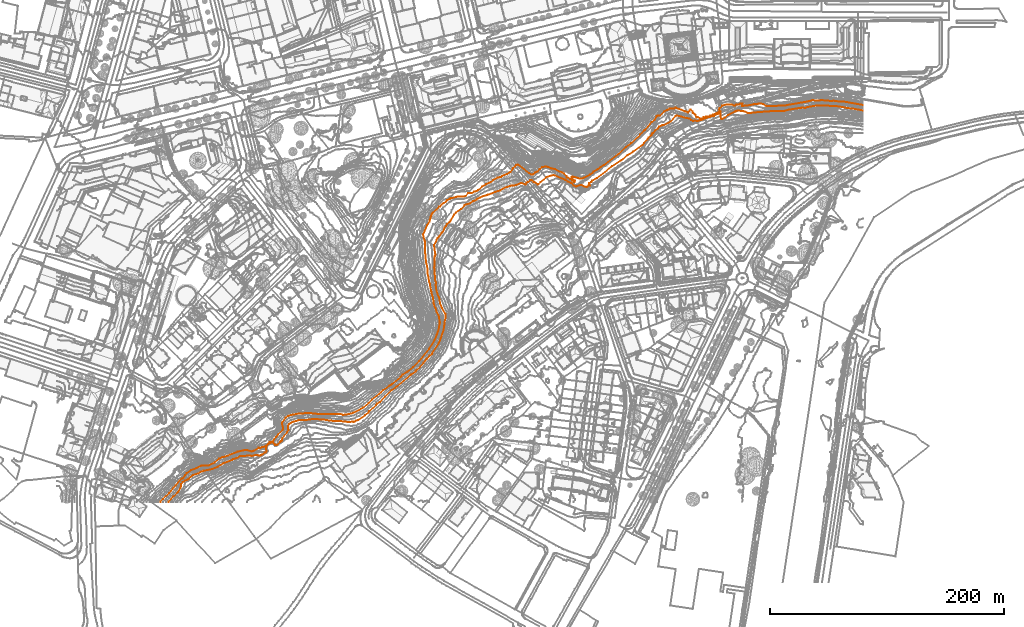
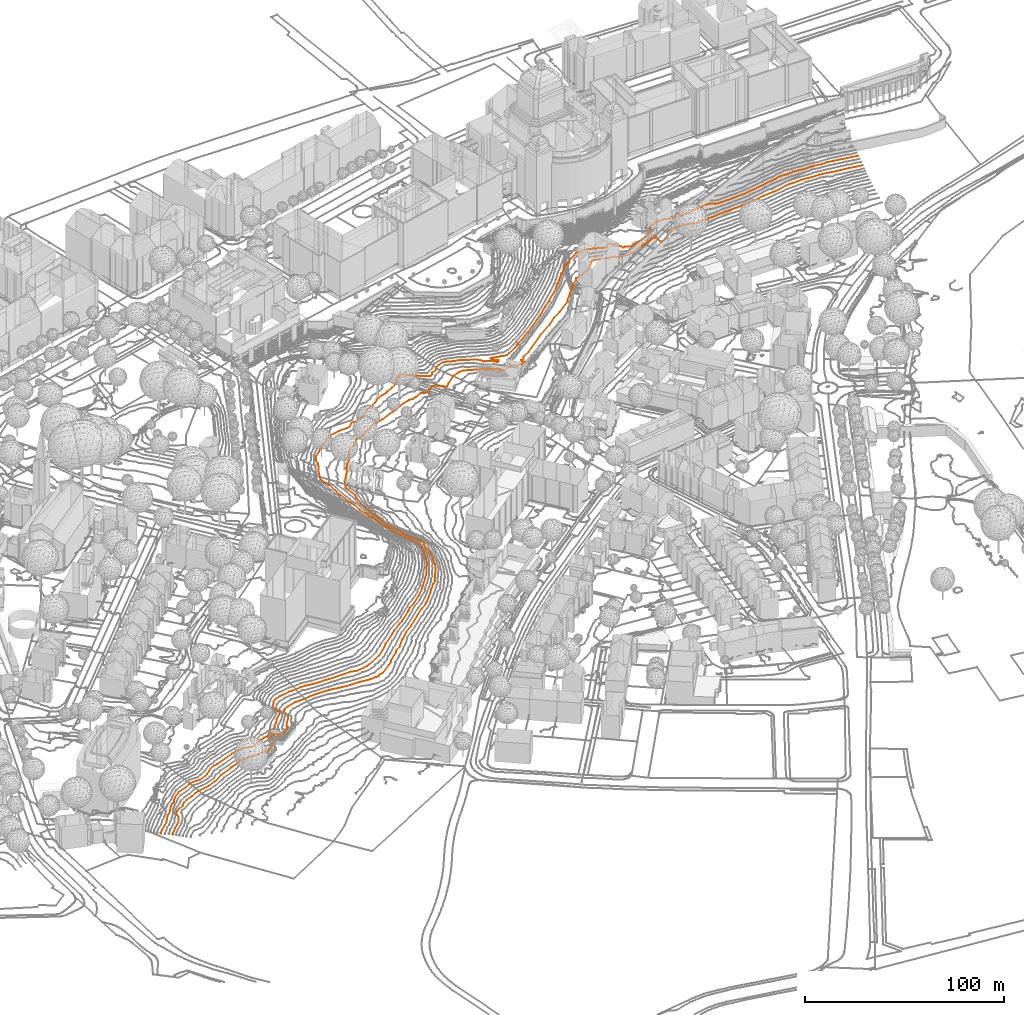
# Not in any storey, part 147 of 494: 2 proxies.
"""IFC2X3 model written with IfcOpenShell, lengths in metres."""

import ifcopenshell
import ifcopenshell.guid

model = None  # the IFC model being written
_history = None  # IfcOwnerHistory: only IFC2X3 demands one
_inside = {}  # id of a spatial element -> (the spatial element, [elements in it])
_under = {}  # id of a project, library or spatial element -> (it, [spatial elements below it])
_declared = {}  # id of a project -> (the project, [libraries it declares])
_typed = {}  # id of a type object -> (the type object, [elements of that type])
_made_of = {}  # id of a material, layer set ... -> (it, [elements and type objects made of it])


def new_model(schema):
    """Start an empty IFC model of exactly this schema.

    Asked for "IFC4X3", IfcOpenShell would pick the latest addendum, in which some entities
    have other attributes; the version numbers below select the first issue.
    IFC2X3 requires an IfcOwnerHistory on every rooted entity: one is made here for all.
    """
    global model, _history
    if schema == "IFC4X3":
        model = ifcopenshell.file(schema_version=(4, 3, 0, 0))
    else:
        model = ifcopenshell.file(schema=schema)
    _inside.clear()
    _under.clear()
    _declared.clear()
    _typed.clear()
    _made_of.clear()
    _history = None
    if model.schema == "IFC2X3":
        org = make("IfcOrganization", Name="unknown")
        user = make(
            "IfcPersonAndOrganization",
            ThePerson=make("IfcPerson", FamilyName="unknown"),
            TheOrganization=org,
        )
        app = make(
            "IfcApplication",
            ApplicationDeveloper=org,
            Version="unknown",
            ApplicationFullName="unknown",
            ApplicationIdentifier="unknown",
        )
        _history = make(
            "IfcOwnerHistory",
            OwningUser=user,
            OwningApplication=app,
            ChangeAction="ADDED",
            CreationDate=0,
        )
    return model


def make(cls, **values):
    """One entity of the class cls with the attributes given. An attribute that is None is left unset."""
    return model.create_entity(
        cls, **{name: value for name, value in values.items() if value is not None}
    )


def entity(cls, *values):
    """Any entity or typed value of the class cls, its attributes in the order of the schema. None: left unset."""
    e = model.create_entity(cls)
    for i, value in enumerate(values):
        if value is not None:
            e[i] = value
    return e


def rooted(cls, **values):
    """An entity with a GlobalId (a new one), such as an element, a storey or a relation."""
    return make(cls, GlobalId=ifcopenshell.guid.new(), OwnerHistory=_history, **values)


def si_unit(unit_type, name, prefix=None):
    """IfcSIUnit, for example si_unit("LENGTHUNIT", "METRE", prefix="MILLI")."""
    return make("IfcSIUnit", UnitType=unit_type, Prefix=prefix, Name=name)


def assignment(units):
    """IfcUnitAssignment: the units of a project."""
    return None if units is None else make("IfcUnitAssignment", Units=units)


def point(xyz):
    """IfcCartesianPoint."""
    return None if xyz is None else make("IfcCartesianPoint", Coordinates=xyz)


def direction(xyz):
    """IfcDirection."""
    return None if xyz is None else make("IfcDirection", DirectionRatios=xyz)


def frame(location, z_axis=None, x_axis=None):
    """IfcAxis2Placement3D, a coordinate frame: its origin and axes. An axis left out is left unset."""
    return make(
        "IfcAxis2Placement3D",
        Location=point(location),
        Axis=direction(z_axis),
        RefDirection=direction(x_axis),
    )


def origin_with_axes():
    """The frame at (0, 0, 0) with the z axis (0, 0, 1) and the x axis (1, 0, 0) written out."""
    return frame((0.0, 0.0, 0.0), z_axis=(0.0, 0.0, 1.0), x_axis=(1.0, 0.0, 0.0))


def place(relative_to, where):
    """IfcLocalPlacement: puts the frame where relative to a parent placement (None: the world)."""
    return make(
        "IfcLocalPlacement", PlacementRelTo=relative_to, RelativePlacement=where
    )


def context(
    kind, dimensions, precision=None, world=None, true_north=None, identifier=None
):
    """IfcGeometricRepresentationContext, for example the 3D "Model" context."""
    return make(
        "IfcGeometricRepresentationContext",
        ContextIdentifier=identifier,
        ContextType=kind,
        CoordinateSpaceDimension=dimensions,
        Precision=precision,
        WorldCoordinateSystem=world,
        TrueNorth=true_north,
    )


def subcontext(parent, identifier, kind, view, scale=None):
    """IfcGeometricRepresentationSubContext, for example "Body" below "Model"."""
    return make(
        "IfcGeometricRepresentationSubContext",
        ContextIdentifier=identifier,
        ContextType=kind,
        ParentContext=parent,
        TargetScale=scale,
        TargetView=view,
    )


def project(units=None, contexts=None):
    """IfcProject with its units and contexts."""
    return rooted(
        "IfcProject",
        Name="project",
        RepresentationContexts=contexts,
        UnitsInContext=assignment(units),
    )


def shape(context_of_items, identifier, shape_type, items):
    """IfcShapeRepresentation: the items that make up one representation, for example the "Body"."""
    return make(
        "IfcShapeRepresentation",
        ContextOfItems=context_of_items,
        RepresentationIdentifier=identifier,
        RepresentationType=shape_type,
        Items=items,
    )


def made_of(thing, what):
    """Note that an element or type object is made of a material, layer set ...; save() writes the relation."""
    if what is not None:
        _made_of.setdefault(what.id(), (what, []))[1].append(thing)
    return thing


def element(
    cls,
    number,
    at=None,
    inside=None,
    cuts=None,
    type_object=None,
    material=None,
    context=None,
    identifier="Body",
    shape_type=None,
    held_by="IfcProductDefinitionShape",
    body=None,
    shapes=None,
    **own,
):
    """One element of the class cls, such as IfcWall. Its Tag is "e" and its number.

    at: its placement. inside: the storey or other place that contains it. cuts: it is an
    opening in that element (IfcRelVoidsElement). A single representation is given by context,
    identifier, shape_type and body (its items); several are given by shapes. held_by: the class
    of the entity that holds the representations. save() writes the other relations.
    """
    e = rooted(cls, Tag="e%d" % number, ObjectPlacement=at, **own)
    if body is not None:
        shapes = [shape(context, identifier, shape_type, body)]
    if shapes is not None:
        e.Representation = make(held_by, Representations=shapes)
    if inside is not None:
        _inside.setdefault(inside.id(), (inside, []))[1].append(e)
    if cuts is not None:
        rooted(
            "IfcRelVoidsElement", RelatingBuildingElement=cuts, RelatedOpeningElement=e
        )
    if type_object is not None:
        _typed.setdefault(type_object.id(), (type_object, []))[1].append(e)
    return made_of(e, material)


def aggregate(whole, parts):
    """IfcRelAggregates: a whole, such as a stair, and the parts it consists of."""
    return rooted("IfcRelAggregates", RelatingObject=whole, RelatedObjects=parts)


def save(model, path):
    """Write the relations noted so far, then the file.

    IfcRelAggregates (storeys below a building ...), IfcRelContainedInSpatialStructure (elements
    in a storey), IfcRelDefinesByType, IfcRelAssociatesMaterial and IfcRelDeclares: one each for
    every whole, place, type object, material and project.
    """
    for whole, parts in _under.values():
        aggregate(whole, parts)
    for where, things in _inside.values():
        rooted(
            "IfcRelContainedInSpatialStructure",
            RelatedElements=things,
            RelatingStructure=where,
        )
    for kind, things in _typed.values():
        rooted("IfcRelDefinesByType", RelatedObjects=things, RelatingType=kind)
    for what, things in _made_of.values():
        rooted("IfcRelAssociatesMaterial", RelatedObjects=things, RelatingMaterial=what)
    for by, libraries in _declared.values():
        rooted("IfcRelDeclares", RelatingContext=by, RelatedDefinitions=libraries)
    model.write(path)


model = new_model("IFC2X3")

# Units and contexts
model_context = context("Model", 3, precision=1e-05, world=origin_with_axes())
body_context = subcontext(model_context, "Body", "Model", "MODEL_VIEW")
ifc_project = project(units=[si_unit("AREAUNIT", "SQUARE_METRE"), si_unit("LENGTHUNIT", "METRE")], contexts=[model_context])

# Proxies
proxy_1_placement = place(None, frame((94.6451804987, -1.3292839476, 516.0), z_axis=(0.0, 0.0, 1.0), x_axis=(1.0, 0.0, 0.0)))
element("IfcBuildingElementProxy", 1, at=proxy_1_placement, Name="Contour Line 516.0 m", ObjectType="NOTDEFINED", context=body_context, shape_type="GeometricCurveSet", body=[
    entity("IfcGeometricCurveSet", [entity("IfcPolyline", [entity("IfcCartesianPoint", [593.532551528, 334.4569213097, 0.0]), entity("IfcCartesianPoint", [585.032551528, 336.0992237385, 0.0]), entity("IfcCartesianPoint", [581.032551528, 336.4362391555, 0.0]), entity("IfcCartesianPoint", [570.032551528, 338.3774283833, 0.0]), entity("IfcCartesianPoint", [565.032551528, 338.3635471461, 0.0]), entity("IfcCartesianPoint", [563.032551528, 338.753660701, 0.0]), entity("IfcCartesianPoint", [559.032551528, 338.8943821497, 0.0]), entity("IfcCartesianPoint", [555.032551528, 338.5575432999, 0.0]), entity("IfcCartesianPoint", [553.032551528, 338.6659128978, 0.0]), entity("IfcCartesianPoint", [546.032551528, 337.4804011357, 0.0]), entity("IfcCartesianPoint", [544.032551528, 336.7966074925, 0.0]), entity("IfcCartesianPoint", [541.032551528, 336.837419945, 0.0]), entity("IfcCartesianPoint", [537.032551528, 336.3372235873, 0.0]), entity("IfcCartesianPoint", [530.032551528, 335.2063816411, 0.0]), entity("IfcCartesianPoint", [526.032551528, 334.2492584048, 0.0]), entity("IfcCartesianPoint", [513.032551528, 333.8089837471, 0.0]), entity("IfcCartesianPoint", [499.032551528, 332.7112004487, 0.0]), entity("IfcCartesianPoint", [497.032551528, 332.234372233, 0.0]), entity("IfcCartesianPoint", [494.4856066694, 332.5, 0.0]), entity("IfcCartesianPoint", [492.032551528, 333.7736842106, 0.0]), entity("IfcCartesianPoint", [486.032551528, 334.5032056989, 0.0]), entity("IfcCartesianPoint", [485.032551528, 333.830392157, 0.0]), entity("IfcCartesianPoint", [484.032551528, 333.6964348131, 0.0]), entity("IfcCartesianPoint", [478.032551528, 330.7809695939, 0.0]), entity("IfcCartesianPoint", [475.032551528, 328.3691002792, 0.0]), entity("IfcCartesianPoint", [473.032551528, 327.3569679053, 0.0]), entity("IfcCartesianPoint", [471.9647476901, 327.5, 0.0]), entity("IfcCartesianPoint", [471.5054407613, 331.5, 0.0]), entity("IfcCartesianPoint", [471.032551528, 331.8666666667, 0.0]), entity("IfcCartesianPoint", [468.1002814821, 331.5, 0.0]), entity("IfcCartesianPoint", [466.032551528, 329.9208153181, 0.0]), entity("IfcCartesianPoint", [465.032551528, 330.0118642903, 0.0]), entity("IfcCartesianPoint", [463.2310366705, 329.5, 0.0]), entity("IfcCartesianPoint", [462.032551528, 328.8295881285, 0.0]), entity("IfcCartesianPoint", [461.032551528, 328.7882805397, 0.0]), entity("IfcCartesianPoint", [458.032551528, 327.7130395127, 0.0]), entity("IfcCartesianPoint", [455.032551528, 326.2169025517, 0.0]), entity("IfcCartesianPoint", [454.032551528, 326.2557899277, 0.0]), entity("IfcCartesianPoint", [452.032551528, 325.475490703, 0.0]), entity("IfcCartesianPoint", [450.032551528, 325.8483368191, 0.0]), entity("IfcCartesianPoint", [448.032551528, 325.6429913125, 0.0]), entity("IfcCartesianPoint", [446.3350921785, 326.5, 0.0]), entity("IfcCartesianPoint", [445.032551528, 327.6454870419, 0.0]), entity("IfcCartesianPoint", [443.032551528, 327.9308691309, 0.0]), entity("IfcCartesianPoint", [434.032551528, 330.2673211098, 0.0]), entity("IfcCartesianPoint", [433.032551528, 329.6540574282, 0.0]), entity("IfcCartesianPoint", [429.032551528, 325.2024719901, 0.0]), entity("IfcCartesianPoint", [423.032551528, 321.874878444, 0.0]), entity("IfcCartesianPoint", [422.032551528, 321.8647367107, 0.0]), entity("IfcCartesianPoint", [419.032551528, 320.8609538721, 0.0]), entity("IfcCartesianPoint", [418.032551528, 319.2919065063, 0.0]), entity("IfcCartesianPoint", [415.5811084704, 317.5, 0.0]), entity("IfcCartesianPoint", [414.032551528, 315.381904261, 0.0]), entity("IfcCartesianPoint", [413.032551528, 314.9959384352, 0.0]), entity("IfcCartesianPoint", [412.4450647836, 313.5, 0.0]), entity("IfcCartesianPoint", [410.1430175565, 311.5, 0.0]), entity("IfcCartesianPoint", [409.032551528, 309.865699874, 0.0]), entity("IfcCartesianPoint", [406.032551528, 306.8477698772, 0.0]), entity("IfcCartesianPoint", [405.032551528, 305.1894117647, 0.0]), entity("IfcCartesianPoint", [397.032551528, 299.3456675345, 0.0]), entity("IfcCartesianPoint", [392.2100176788, 296.5, 0.0]), entity("IfcCartesianPoint", [387.032551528, 292.2167710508, 0.0]), entity("IfcCartesianPoint", [379.032551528, 286.9387822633, 0.0]), entity("IfcCartesianPoint", [366.032551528, 276.9773089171, 0.0]), entity("IfcCartesianPoint", [361.9274706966, 274.5, 0.0]), entity("IfcCartesianPoint", [361.032551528, 273.2020576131, 0.0]), entity("IfcCartesianPoint", [359.2489898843, 272.5, 0.0]), entity("IfcCartesianPoint", [359.1460544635, 271.5, 0.0]), entity("IfcCartesianPoint", [360.0438344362, 270.5, 0.0]), entity("IfcCartesianPoint", [359.032551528, 270.4463567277, 0.0]), entity("IfcCartesianPoint", [358.032551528, 269.4362806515, 0.0]), entity("IfcCartesianPoint", [357.032551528, 269.0695097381, 0.0]), entity("IfcCartesianPoint", [355.2987930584, 269.5, 0.0]), entity("IfcCartesianPoint", [353.032551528, 270.7884666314, 0.0]), entity("IfcCartesianPoint", [352.032551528, 270.7872731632, 0.0]), entity("IfcCartesianPoint", [349.032551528, 270.0180862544, 0.0]), entity("IfcCartesianPoint", [348.032551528, 269.3860146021, 0.0]), entity("IfcCartesianPoint", [346.114096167, 270.5, 0.0]), entity("IfcCartesianPoint", [343.8843900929, 272.5, 0.0]), entity("IfcCartesianPoint", [341.032551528, 273.8670099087, 0.0]), entity("IfcCartesianPoint", [339.032551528, 275.1770694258, 0.0]), entity("IfcCartesianPoint", [330.032551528, 278.9399057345, 0.0]), entity("IfcCartesianPoint", [329.032551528, 279.2129840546, 0.0]), entity("IfcCartesianPoint", [327.032551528, 279.0539550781, 0.0]), entity("IfcCartesianPoint", [323.032551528, 277.6043573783, 0.0]), entity("IfcCartesianPoint", [317.7937522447, 273.5, 0.0]), entity("IfcCartesianPoint", [315.9017152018, 271.5, 0.0]), entity("IfcCartesianPoint", [315.032551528, 271.3734876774, 0.0]), entity("IfcCartesianPoint", [313.032551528, 273.0373060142, 0.0]), entity("IfcCartesianPoint", [312.032551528, 273.50928743, 0.0]), entity("IfcCartesianPoint", [311.032551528, 274.7193061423, 0.0]), entity("IfcCartesianPoint", [309.032551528, 275.1199845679, 0.0]), entity("IfcCartesianPoint", [307.032551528, 273.367980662, 0.0]), entity("IfcCartesianPoint", [306.032551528, 272.8441584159, 0.0]), entity("IfcCartesianPoint", [305.032551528, 271.1894557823, 0.0]), entity("IfcCartesianPoint", [301.032551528, 272.6068090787, 0.0]), entity("IfcCartesianPoint", [297.032551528, 270.8943943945, 0.0]), entity("IfcCartesianPoint", [295.032551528, 270.4402785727, 0.0]), entity("IfcCartesianPoint", [293.032551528, 270.3847392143, 0.0]), entity("IfcCartesianPoint", [289.032551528, 269.239985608, 0.0]), entity("IfcCartesianPoint", [286.032551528, 268.0060613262, 0.0]), entity("IfcCartesianPoint", [283.032551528, 266.2208680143, 0.0]), entity("IfcCartesianPoint", [279.032551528, 264.9960505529, 0.0]), entity("IfcCartesianPoint", [273.032551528, 262.5505136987, 0.0]), entity("IfcCartesianPoint", [269.032551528, 261.4628429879, 0.0]), entity("IfcCartesianPoint", [266.032551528, 260.1951647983, 0.0]), entity("IfcCartesianPoint", [264.032551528, 259.1378971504, 0.0]), entity("IfcCartesianPoint", [263.032551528, 258.2484960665, 0.0]), entity("IfcCartesianPoint", [260.032551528, 256.9574132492, 0.0]), entity("IfcCartesianPoint", [257.032551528, 255.1494976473, 0.0]), entity("IfcCartesianPoint", [253.032551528, 253.9119703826, 0.0]), entity("IfcCartesianPoint", [249.8083402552, 250.5, 0.0]), entity("IfcCartesianPoint", [245.6984383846, 247.5, 0.0]), entity("IfcCartesianPoint", [244.032551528, 245.7920592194, 0.0]), entity("IfcCartesianPoint", [241.0235515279, 240.5, 0.0]), entity("IfcCartesianPoint", [240.032551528, 239.2016431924, 0.0]), entity("IfcCartesianPoint", [238.032551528, 237.6705763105, 0.0]), entity("IfcCartesianPoint", [237.032551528, 235.822265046, 0.0]), entity("IfcCartesianPoint", [235.8577060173, 234.5, 0.0]), entity("IfcCartesianPoint", [234.1574137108, 230.5, 0.0]), entity("IfcCartesianPoint", [233.032551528, 229.7367149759, 0.0]), entity("IfcCartesianPoint", [231.032551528, 226.8030911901, 0.0]), entity("IfcCartesianPoint", [229.6042089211, 225.5, 0.0]), entity("IfcCartesianPoint", [229.032551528, 223.754368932, 0.0]), entity("IfcCartesianPoint", [226.7853605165, 219.5, 0.0]), entity("IfcCartesianPoint", [227.9162324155, 211.5, 0.0]), entity("IfcCartesianPoint", [227.3381851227, 209.5, 0.0]), entity("IfcCartesianPoint", [227.0067060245, 200.5, 0.0]), entity("IfcCartesianPoint", [227.6852490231, 190.5, 0.0]), entity("IfcCartesianPoint", [228.3877946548, 187.5, 0.0]), entity("IfcCartesianPoint", [228.26908699, 185.5, 0.0]), entity("IfcCartesianPoint", [228.6133776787, 182.5, 0.0]), entity("IfcCartesianPoint", [229.8432803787, 177.5, 0.0]), entity("IfcCartesianPoint", [231.1245843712, 174.5, 0.0]), entity("IfcCartesianPoint", [232.1256594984, 169.5, 0.0]), entity("IfcCartesianPoint", [233.7109569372, 165.5, 0.0]), entity("IfcCartesianPoint", [236.5182450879, 160.5, 0.0]), entity("IfcCartesianPoint", [236.6330993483, 157.5, 0.0]), entity("IfcCartesianPoint", [235.7104148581, 153.5, 0.0]), entity("IfcCartesianPoint", [235.5379130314, 150.5, 0.0]), entity("IfcCartesianPoint", [234.9895117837, 147.5, 0.0]), entity("IfcCartesianPoint", [232.5055993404, 139.5, 0.0]), entity("IfcCartesianPoint", [230.546630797, 135.5, 0.0]), entity("IfcCartesianPoint", [225.4142825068, 127.5, 0.0]), entity("IfcCartesianPoint", [225.032551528, 126.4053833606, 0.0]), entity("IfcCartesianPoint", [223.032551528, 124.9153575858, 0.0]), entity("IfcCartesianPoint", [221.032551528, 122.4384351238, 0.0]), entity("IfcCartesianPoint", [219.8560078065, 121.5, 0.0]), entity("IfcCartesianPoint", [218.032551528, 119.0159723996, 0.0]), entity("IfcCartesianPoint", [212.032551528, 112.5865623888, 0.0]), entity("IfcCartesianPoint", [210.8671685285, 111.5, 0.0]), entity("IfcCartesianPoint", [207.032551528, 108.8962002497, 0.0]), entity("IfcCartesianPoint", [194.8663532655, 98.5, 0.0]), entity("IfcCartesianPoint", [190.5146190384, 95.5, 0.0]), entity("IfcCartesianPoint", [185.032551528, 90.2463204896, 0.0]), entity("IfcCartesianPoint", [180.6546188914, 85.5, 0.0]), entity("IfcCartesianPoint", [178.032551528, 83.9287540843, 0.0]), entity("IfcCartesianPoint", [177.032551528, 82.6434184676, 0.0]), entity("IfcCartesianPoint", [171.336374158, 77.5, 0.0]), entity("IfcCartesianPoint", [170.6368362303, 76.5, 0.0]), entity("IfcCartesianPoint", [168.032551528, 74.3135593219, 0.0]), entity("IfcCartesianPoint", [162.032551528, 70.0682568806, 0.0]), entity("IfcCartesianPoint", [160.032551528, 69.5642385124, 0.0]), entity("IfcCartesianPoint", [159.032551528, 68.746776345, 0.0]), entity("IfcCartesianPoint", [158.1090906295, 68.5, 0.0]), entity("IfcCartesianPoint", [157.032551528, 68.6965044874, 0.0]), entity("IfcCartesianPoint", [154.032551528, 68.2766287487, 0.0]), entity("IfcCartesianPoint", [147.032551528, 69.043556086, 0.0]), entity("IfcCartesianPoint", [143.032551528, 69.0018067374, 0.0]), entity("IfcCartesianPoint", [137.032551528, 69.556911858, 0.0]), entity("IfcCartesianPoint", [132.032551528, 70.5159030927, 0.0]), entity("IfcCartesianPoint", [124.032551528, 70.772258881, 0.0]), entity("IfcCartesianPoint", [120.032551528, 70.5704535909, 0.0]), entity("IfcCartesianPoint", [117.032551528, 69.9868844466, 0.0]), entity("IfcCartesianPoint", [111.032551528, 69.8096196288, 0.0]), entity("IfcCartesianPoint", [106.032551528, 68.4485698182, 0.0]), entity("IfcCartesianPoint", [104.032551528, 67.4832635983, 0.0]), entity("IfcCartesianPoint", [102.8659639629, 66.5, 0.0]), entity("IfcCartesianPoint", [102.2176255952, 65.5, 0.0]), entity("IfcCartesianPoint", [101.9589674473, 64.5, 0.0]), entity("IfcCartesianPoint", [102.2986415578, 61.5, 0.0]), entity("IfcCartesianPoint", [101.108665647, 59.5, 0.0]), entity("IfcCartesianPoint", [97.1939625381, 54.5, 0.0]), entity("IfcCartesianPoint", [96.9106145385, 53.5, 0.0]), entity("IfcCartesianPoint", [97.0383400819, 52.5, 0.0]), entity("IfcCartesianPoint", [96.032551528, 51.9337219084, 0.0]), entity("IfcCartesianPoint", [95.7909205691, 51.5, 0.0]), entity("IfcCartesianPoint", [95.032551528, 51.2621327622, 0.0]), entity("IfcCartesianPoint", [93.032551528, 49.2389182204, 0.0]), entity("IfcCartesianPoint", [92.032551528, 48.8471668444, 0.0]), entity("IfcCartesianPoint", [91.032551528, 48.6740542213, 0.0]), entity("IfcCartesianPoint", [90.478072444, 49.5, 0.0]), entity("IfcCartesianPoint", [89.032551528, 50.6891315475, 0.0]), entity("IfcCartesianPoint", [88.032551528, 50.7295968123, 0.0]), entity("IfcCartesianPoint", [85.032551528, 49.6506103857, 0.0]), entity("IfcCartesianPoint", [83.4790717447, 47.5, 0.0]), entity("IfcCartesianPoint", [83.2434901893, 46.5, 0.0]), entity("IfcCartesianPoint", [83.5615134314, 43.5, 0.0]), entity("IfcCartesianPoint", [83.032551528, 42.3370989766, 0.0]), entity("IfcCartesianPoint", [82.032551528, 42.1537926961, 0.0]), entity("IfcCartesianPoint", [80.032551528, 40.444225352, 0.0]), entity("IfcCartesianPoint", [79.032551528, 40.2250671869, 0.0]), entity("IfcCartesianPoint", [78.032551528, 39.4516278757, 0.0]), entity("IfcCartesianPoint", [77.032551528, 39.4539310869, 0.0]), entity("IfcCartesianPoint", [76.032551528, 40.0559502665, 0.0]), entity("IfcCartesianPoint", [75.032551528, 40.2514186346, 0.0]), entity("IfcCartesianPoint", [71.032551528, 39.319356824, 0.0]), entity("IfcCartesianPoint", [69.032551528, 39.6822125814, 0.0]), entity("IfcCartesianPoint", [61.032551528, 39.1103038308, 0.0]), entity("IfcCartesianPoint", [58.032551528, 37.4810056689, 0.0]), entity("IfcCartesianPoint", [55.032551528, 36.5515725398, 0.0]), entity("IfcCartesianPoint", [54.032551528, 35.9299255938, 0.0]), entity("IfcCartesianPoint", [47.032551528, 33.1871533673, 0.0]), entity("IfcCartesianPoint", [42.032551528, 30.1450362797, 0.0]), entity("IfcCartesianPoint", [37.032551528, 28.0930811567, 0.0]), entity("IfcCartesianPoint", [30.032551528, 26.7324897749, 0.0]), entity("IfcCartesianPoint", [28.032551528, 26.0225788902, 0.0]), entity("IfcCartesianPoint", [25.032551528, 24.3498176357, 0.0]), entity("IfcCartesianPoint", [21.032551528, 23.0029326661, 0.0]), entity("IfcCartesianPoint", [18.5351404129, 21.5, 0.0]), entity("IfcCartesianPoint", [17.0390547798, 19.5, 0.0]), entity("IfcCartesianPoint", [14.032551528, 18.1913494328, 0.0]), entity("IfcCartesianPoint", [12.032551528, 16.8471717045, 0.0]), entity("IfcCartesianPoint", [10.8019883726, 15.5, 0.0]), entity("IfcCartesianPoint", [10.3322124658, 12.5, 0.0]), entity("IfcCartesianPoint", [8.1551121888, 8.5, 0.0]), entity("IfcCartesianPoint", [3.7222490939, 4.5, 0.0]), entity("IfcCartesianPoint", [0.0, 0.5, 0.0]), entity("IfcCartesianPoint", [0.0, 0.0, 0.0])])]),
])
proxy_2_placement = place(None, frame((87.5901699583, -1.3292839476, 519.0), z_axis=(0.0, 0.0, 1.0), x_axis=(1.0, 0.0, 0.0)))
element("IfcBuildingElementProxy", 2, at=proxy_2_placement, Name="Contour Line 519.0 m", ObjectType="NOTDEFINED", context=body_context, shape_type="GeometricCurveSet", body=[
    entity("IfcGeometricCurveSet", [entity("IfcPolyline", [entity("IfcCartesianPoint", [600.5875620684, 339.2074202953, 0.0]), entity("IfcCartesianPoint", [584.0875620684, 342.0237920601, 0.0]), entity("IfcCartesianPoint", [581.0875620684, 342.0113628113, 0.0]), entity("IfcCartesianPoint", [575.0875620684, 342.8151470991, 0.0]), entity("IfcCartesianPoint", [572.0875620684, 342.699063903, 0.0]), entity("IfcCartesianPoint", [565.0875620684, 343.3409046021, 0.0]), entity("IfcCartesianPoint", [561.0875620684, 343.0420935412, 0.0]), entity("IfcCartesianPoint", [557.0875620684, 343.3370058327, 0.0]), entity("IfcCartesianPoint", [554.0875620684, 342.4506995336, 0.0]), entity("IfcCartesianPoint", [534.0875620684, 338.9306819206, 0.0]), entity("IfcCartesianPoint", [524.0875620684, 338.3485219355, 0.0]), entity("IfcCartesianPoint", [518.0875620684, 338.3521598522, 0.0]), entity("IfcCartesianPoint", [517.0875620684, 338.6370819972, 0.0]), entity("IfcCartesianPoint", [515.0875620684, 339.9630797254, 0.0]), entity("IfcCartesianPoint", [512.0875620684, 340.5249433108, 0.0]), entity("IfcCartesianPoint", [511.0875620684, 340.544106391, 0.0]), entity("IfcCartesianPoint", [510.0875620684, 339.8372446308, 0.0]), entity("IfcCartesianPoint", [507.0875620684, 339.8088841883, 0.0]), entity("IfcCartesianPoint", [501.0875620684, 338.6388933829, 0.0]), entity("IfcCartesianPoint", [500.0875620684, 338.843240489, 0.0]), entity("IfcCartesianPoint", [498.0875620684, 338.350395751, 0.0]), entity("IfcCartesianPoint", [497.0656424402, 338.5, 0.0]), entity("IfcCartesianPoint", [496.987817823, 339.5, 0.0]), entity("IfcCartesianPoint", [497.2767290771, 340.5, 0.0]), entity("IfcCartesianPoint", [495.6607378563, 340.5, 0.0]), entity("IfcCartesianPoint", [494.0875620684, 339.7530830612, 0.0]), entity("IfcCartesianPoint", [492.0875620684, 339.6943368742, 0.0]), entity("IfcCartesianPoint", [491.0875620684, 338.8436684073, 0.0]), entity("IfcCartesianPoint", [490.0875620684, 338.7000920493, 0.0]), entity("IfcCartesianPoint", [488.0875620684, 339.7944598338, 0.0]), entity("IfcCartesianPoint", [484.0875620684, 339.7655750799, 0.0]), entity("IfcCartesianPoint", [480.0875620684, 338.6523671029, 0.0]), entity("IfcCartesianPoint", [478.0002579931, 336.5, 0.0]), entity("IfcCartesianPoint", [477.5976003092, 335.5, 0.0]), entity("IfcCartesianPoint", [478.4752809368, 333.5, 0.0]), entity("IfcCartesianPoint", [477.0875620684, 333.180768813, 0.0]), entity("IfcCartesianPoint", [476.0875620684, 332.3836889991, 0.0]), entity("IfcCartesianPoint", [475.0875620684, 332.2585928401, 0.0]), entity("IfcCartesianPoint", [474.0875620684, 331.3414881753, 0.0]), entity("IfcCartesianPoint", [472.0875620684, 331.2034814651, 0.0]), entity("IfcCartesianPoint", [471.0875620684, 330.3412232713, 0.0]), entity("IfcCartesianPoint", [470.0875620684, 330.2841308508, 0.0]), entity("IfcCartesianPoint", [468.7301994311, 329.5, 0.0]), entity("IfcCartesianPoint", [466.0875620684, 329.2952922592, 0.0]), entity("IfcCartesianPoint", [465.0875620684, 328.4360969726, 0.0]), entity("IfcCartesianPoint", [464.4557994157, 328.5, 0.0]), entity("IfcCartesianPoint", [464.0875620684, 328.8991801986, 0.0]), entity("IfcCartesianPoint", [463.0875620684, 327.7248195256, 0.0]), entity("IfcCartesianPoint", [462.0875620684, 327.4824925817, 0.0]), entity("IfcCartesianPoint", [461.4305464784, 327.5, 0.0]), entity("IfcCartesianPoint", [459.0875620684, 328.9030327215, 0.0]), entity("IfcCartesianPoint", [458.0875620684, 328.4097605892, 0.0]), entity("IfcCartesianPoint", [457.3236951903, 330.5, 0.0]), entity("IfcCartesianPoint", [456.4625620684, 331.5, 0.0]), entity("IfcCartesianPoint", [455.0154227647, 332.5, 0.0]), entity("IfcCartesianPoint", [454.7004652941, 333.5, 0.0]), entity("IfcCartesianPoint", [453.0875620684, 335.1099337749, 0.0]), entity("IfcCartesianPoint", [452.2688954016, 334.5, 0.0]), entity("IfcCartesianPoint", [451.0875620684, 332.9665801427, 0.0]), entity("IfcCartesianPoint", [448.705060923, 333.5, 0.0]), entity("IfcCartesianPoint", [448.0875620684, 333.9400914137, 0.0]), entity("IfcCartesianPoint", [440.0875620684, 336.8386091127, 0.0]), entity("IfcCartesianPoint", [439.0875620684, 336.3166956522, 0.0]), entity("IfcCartesianPoint", [435.0875620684, 336.1362698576, 0.0]), entity("IfcCartesianPoint", [434.0875620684, 335.2112871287, 0.0]), entity("IfcCartesianPoint", [433.0875620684, 335.0167494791, 0.0]), entity("IfcCartesianPoint", [430.207397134, 333.5, 0.0]), entity("IfcCartesianPoint", [427.0875620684, 330.1290630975, 0.0]), entity("IfcCartesianPoint", [425.0875620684, 330.0970744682, 0.0]), entity("IfcCartesianPoint", [424.0875620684, 329.6362229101, 0.0]), entity("IfcCartesianPoint", [422.1465229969, 326.5, 0.0]), entity("IfcCartesianPoint", [419.6671180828, 324.5, 0.0]), entity("IfcCartesianPoint", [414.0875620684, 318.0100726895, 0.0]), entity("IfcCartesianPoint", [413.0875620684, 317.3207437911, 0.0]), entity("IfcCartesianPoint", [410.0875620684, 313.9061182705, 0.0]), entity("IfcCartesianPoint", [402.0875620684, 306.5471568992, 0.0]), entity("IfcCartesianPoint", [398.0875620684, 303.4189479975, 0.0]), entity("IfcCartesianPoint", [391.3368380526, 297.5, 0.0]), entity("IfcCartesianPoint", [379.0875620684, 287.9686178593, 0.0]), entity("IfcCartesianPoint", [376.0875620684, 286.1922925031, 0.0]), entity("IfcCartesianPoint", [374.0875620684, 284.4527073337, 0.0]), entity("IfcCartesianPoint", [370.1792567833, 282.5, 0.0]), entity("IfcCartesianPoint", [369.0875620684, 281.1277499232, 0.0]), entity("IfcCartesianPoint", [367.0875620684, 279.7742774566, 0.0]), entity("IfcCartesianPoint", [362.0875620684, 277.106456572, 0.0]), entity("IfcCartesianPoint", [360.0875620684, 276.3475832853, 0.0]), entity("IfcCartesianPoint", [358.0875620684, 276.3310617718, 0.0]), entity("IfcCartesianPoint", [357.0875620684, 276.7927340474, 0.0]), entity("IfcCartesianPoint", [352.0875620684, 277.9046712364, 0.0]), entity("IfcCartesianPoint", [351.4912283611, 277.5, 0.0]), entity("IfcCartesianPoint", [352.3763448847, 276.5, 0.0]), entity("IfcCartesianPoint", [352.3050761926, 275.5, 0.0]), entity("IfcCartesianPoint", [354.5215061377, 274.5, 0.0]), entity("IfcCartesianPoint", [353.7938763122, 273.5, 0.0]), entity("IfcCartesianPoint", [353.0875620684, 273.4090737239, 0.0]), entity("IfcCartesianPoint", [351.6406688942, 274.5, 0.0]), entity("IfcCartesianPoint", [351.8513657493, 275.5, 0.0]), entity("IfcCartesianPoint", [350.0875620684, 276.041738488, 0.0]), entity("IfcCartesianPoint", [348.0875620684, 277.3333333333, 0.0]), entity("IfcCartesianPoint", [347.0875620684, 277.4211025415, 0.0]), entity("IfcCartesianPoint", [346.914160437, 278.5, 0.0]), entity("IfcCartesianPoint", [345.0875620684, 280.4957366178, 0.0]), entity("IfcCartesianPoint", [343.4562930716, 281.5, 0.0]), entity("IfcCartesianPoint", [341.0875620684, 282.2640604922, 0.0]), entity("IfcCartesianPoint", [337.0875620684, 284.3579656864, 0.0]), entity("IfcCartesianPoint", [334.0875620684, 285.0672649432, 0.0]), entity("IfcCartesianPoint", [331.0875620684, 286.3101029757, 0.0]), entity("IfcCartesianPoint", [329.0875620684, 286.7424900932, 0.0]), entity("IfcCartesianPoint", [326.0875620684, 285.9791380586, 0.0]), entity("IfcCartesianPoint", [324.0040677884, 284.5, 0.0]), entity("IfcCartesianPoint", [322.3991767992, 282.5, 0.0]), entity("IfcCartesianPoint", [320.0875620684, 281.6716738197, 0.0]), entity("IfcCartesianPoint", [319.0875620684, 280.2649269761, 0.0]), entity("IfcCartesianPoint", [318.0875620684, 279.6366290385, 0.0]), entity("IfcCartesianPoint", [317.0875620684, 279.7347908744, 0.0]), entity("IfcCartesianPoint", [315.0875620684, 280.8628427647, 0.0]), entity("IfcCartesianPoint", [306.0875620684, 287.8337955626, 0.0]), entity("IfcCartesianPoint", [305.0875620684, 288.3186471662, 0.0]), entity("IfcCartesianPoint", [304.0875620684, 288.060118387, 0.0]), entity("IfcCartesianPoint", [303.0875620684, 286.772812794, 0.0]), entity("IfcCartesianPoint", [301.4526699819, 285.5, 0.0]), entity("IfcCartesianPoint", [301.0750620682, 284.5, 0.0]), entity("IfcCartesianPoint", [299.0875620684, 282.0453416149, 0.0]), entity("IfcCartesianPoint", [296.0875620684, 280.3479899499, 0.0]), entity("IfcCartesianPoint", [292.0875620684, 278.6915770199, 0.0]), entity("IfcCartesianPoint", [291.0875620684, 277.769717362, 0.0]), entity("IfcCartesianPoint", [288.0875620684, 277.1122570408, 0.0]), entity("IfcCartesianPoint", [284.0875620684, 275.0907995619, 0.0]), entity("IfcCartesianPoint", [282.0875620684, 273.1774095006, 0.0]), entity("IfcCartesianPoint", [278.0875620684, 271.5156500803, 0.0]), entity("IfcCartesianPoint", [274.9873612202, 269.5, 0.0]), entity("IfcCartesianPoint", [271.5618422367, 266.5, 0.0]), entity("IfcCartesianPoint", [270.0875620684, 265.6022798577, 0.0]), entity("IfcCartesianPoint", [268.0875620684, 265.0927734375, 0.0]), entity("IfcCartesianPoint", [266.0875620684, 263.8769768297, 0.0]), entity("IfcCartesianPoint", [263.0875620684, 263.8488372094, 0.0]), entity("IfcCartesianPoint", [260.5799645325, 261.5, 0.0]), entity("IfcCartesianPoint", [259.0875620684, 261.0297090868, 0.0]), entity("IfcCartesianPoint", [254.0875620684, 260.8898356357, 0.0]), entity("IfcCartesianPoint", [248.0875620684, 259.5215791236, 0.0]), entity("IfcCartesianPoint", [247.0875620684, 259.0337750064, 0.0]), entity("IfcCartesianPoint", [245.0875620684, 257.7756080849, 0.0]), entity("IfcCartesianPoint", [244.0875620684, 256.6930963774, 0.0]), entity("IfcCartesianPoint", [242.0875620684, 255.2565907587, 0.0]), entity("IfcCartesianPoint", [240.0875620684, 254.2841094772, 0.0]), entity("IfcCartesianPoint", [239.0875620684, 252.488153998, 0.0]), entity("IfcCartesianPoint", [238.0875620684, 252.2882660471, 0.0]), entity("IfcCartesianPoint", [236.0875620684, 250.0708455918, 0.0]), entity("IfcCartesianPoint", [232.8950135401, 247.5, 0.0]), entity("IfcCartesianPoint", [232.0875620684, 246.4590850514, 0.0]), entity("IfcCartesianPoint", [231.815466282, 245.5, 0.0]), entity("IfcCartesianPoint", [231.1160696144, 244.5, 0.0]), entity("IfcCartesianPoint", [230.5140386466, 241.5, 0.0]), entity("IfcCartesianPoint", [229.8904922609, 240.5, 0.0]), entity("IfcCartesianPoint", [229.8287159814, 239.5, 0.0]), entity("IfcCartesianPoint", [227.8874930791, 236.5, 0.0]), entity("IfcCartesianPoint", [224.4884409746, 228.5, 0.0]), entity("IfcCartesianPoint", [225.9532263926, 222.5, 0.0]), entity("IfcCartesianPoint", [226.3731822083, 215.5, 0.0]), entity("IfcCartesianPoint", [226.2635341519, 212.5, 0.0]), entity("IfcCartesianPoint", [226.5528885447, 211.5, 0.0]), entity("IfcCartesianPoint", [226.8878351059, 206.5, 0.0]), entity("IfcCartesianPoint", [227.1326587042, 204.5, 0.0]), entity("IfcCartesianPoint", [228.0396336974, 201.5, 0.0]), entity("IfcCartesianPoint", [228.2910741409, 195.5, 0.0]), entity("IfcCartesianPoint", [229.239349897, 191.5, 0.0]), entity("IfcCartesianPoint", [229.5527969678, 188.5, 0.0]), entity("IfcCartesianPoint", [230.2561420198, 186.5, 0.0]), entity("IfcCartesianPoint", [231.5518057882, 179.5, 0.0]), entity("IfcCartesianPoint", [233.0129417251, 174.5, 0.0]), entity("IfcCartesianPoint", [233.7453693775, 168.5, 0.0]), entity("IfcCartesianPoint", [235.2413811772, 165.5, 0.0]), entity("IfcCartesianPoint", [236.0875620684, 162.8574444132, 0.0]), entity("IfcCartesianPoint", [237.8058329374, 159.5, 0.0]), entity("IfcCartesianPoint", [238.8385041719, 153.5, 0.0]), entity("IfcCartesianPoint", [237.7492831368, 147.5, 0.0]), entity("IfcCartesianPoint", [236.0861775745, 142.5, 0.0]), entity("IfcCartesianPoint", [234.3159657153, 138.5, 0.0]), entity("IfcCartesianPoint", [229.4193572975, 130.5, 0.0]), entity("IfcCartesianPoint", [221.0903420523, 120.5, 0.0]), entity("IfcCartesianPoint", [216.0875620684, 115.4507963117, 0.0]), entity("IfcCartesianPoint", [211.1320624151, 111.5, 0.0]), entity("IfcCartesianPoint", [207.0875620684, 108.7420791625, 0.0]), entity("IfcCartesianPoint", [205.0875620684, 106.6303834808, 0.0]), entity("IfcCartesianPoint", [198.0875620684, 100.734980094, 0.0]), entity("IfcCartesianPoint", [195.928757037, 99.5, 0.0]), entity("IfcCartesianPoint", [190.3202291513, 95.5, 0.0]), entity("IfcCartesianPoint", [188.0875620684, 93.3550072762, 0.0]), entity("IfcCartesianPoint", [181.0875620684, 87.7198937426, 0.0]), entity("IfcCartesianPoint", [178.0875620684, 84.6844559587, 0.0]), entity("IfcCartesianPoint", [173.0875620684, 80.5223621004, 0.0]), entity("IfcCartesianPoint", [165.0875620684, 76.2968961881, 0.0]), entity("IfcCartesianPoint", [163.0875620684, 75.4801400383, 0.0]), entity("IfcCartesianPoint", [156.0875620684, 74.358490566, 0.0]), entity("IfcCartesianPoint", [154.0875620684, 75.2715019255, 0.0]), entity("IfcCartesianPoint", [142.0875620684, 75.0038633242, 0.0]), entity("IfcCartesianPoint", [139.0875620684, 75.2890185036, 0.0]), entity("IfcCartesianPoint", [132.0875620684, 75.3466062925, 0.0]), entity("IfcCartesianPoint", [128.0875620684, 75.9854859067, 0.0]), entity("IfcCartesianPoint", [125.0875620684, 76.0951926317, 0.0]), entity("IfcCartesianPoint", [120.0875620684, 75.5086196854, 0.0]), entity("IfcCartesianPoint", [118.0875620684, 75.5586533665, 0.0]), entity("IfcCartesianPoint", [112.0875620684, 74.4471352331, 0.0]), entity("IfcCartesianPoint", [109.0875620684, 73.5135511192, 0.0]), entity("IfcCartesianPoint", [107.0875620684, 72.0309747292, 0.0]), entity("IfcCartesianPoint", [104.0875620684, 67.8988929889, 0.0]), entity("IfcCartesianPoint", [104.0703859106, 66.5, 0.0]), entity("IfcCartesianPoint", [104.8590207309, 63.5, 0.0]), entity("IfcCartesianPoint", [104.8443034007, 62.5, 0.0]), entity("IfcCartesianPoint", [104.3296469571, 61.5, 0.0]), entity("IfcCartesianPoint", [100.3477115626, 57.5, 0.0]), entity("IfcCartesianPoint", [98.9247190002, 55.5, 0.0]), entity("IfcCartesianPoint", [96.9282068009, 53.5, 0.0]), entity("IfcCartesianPoint", [95.8782477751, 51.5, 0.0]), entity("IfcCartesianPoint", [93.0875620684, 51.0823852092, 0.0]), entity("IfcCartesianPoint", [89.0875620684, 47.2351147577, 0.0]), entity("IfcCartesianPoint", [87.0875620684, 46.9044790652, 0.0]), entity("IfcCartesianPoint", [85.0875620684, 46.1914991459, 0.0]), entity("IfcCartesianPoint", [84.0875620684, 46.4369016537, 0.0]), entity("IfcCartesianPoint", [80.0875620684, 43.7953439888, 0.0]), entity("IfcCartesianPoint", [78.0875620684, 43.2217714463, 0.0]), entity("IfcCartesianPoint", [74.0875620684, 44.1833129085, 0.0]), entity("IfcCartesianPoint", [72.0875620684, 44.2542492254, 0.0]), entity("IfcCartesianPoint", [70.0875620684, 44.016593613, 0.0]), entity("IfcCartesianPoint", [66.0875620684, 42.8831682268, 0.0]), entity("IfcCartesianPoint", [55.0875620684, 38.7189822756, 0.0]), entity("IfcCartesianPoint", [53.0875620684, 38.3507612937, 0.0]), entity("IfcCartesianPoint", [50.0875620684, 37.0601088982, 0.0]), entity("IfcCartesianPoint", [46.0875620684, 33.5544539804, 0.0]), entity("IfcCartesianPoint", [41.0875620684, 31.3031623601, 0.0]), entity("IfcCartesianPoint", [35.0875620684, 31.1045585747, 0.0]), entity("IfcCartesianPoint", [31.0875620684, 29.0458292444, 0.0]), entity("IfcCartesianPoint", [26.0875620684, 27.1874397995, 0.0]), entity("IfcCartesianPoint", [22.5693161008, 24.5, 0.0]), entity("IfcCartesianPoint", [21.0875620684, 22.9829178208, 0.0]), entity("IfcCartesianPoint", [19.0875620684, 20.2147567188, 0.0]), entity("IfcCartesianPoint", [18.0875620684, 19.8986963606, 0.0]), entity("IfcCartesianPoint", [16.4877268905, 18.5, 0.0]), entity("IfcCartesianPoint", [13.0875620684, 13.9119018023, 0.0]), entity("IfcCartesianPoint", [11.0875620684, 12.320340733, 0.0]), entity("IfcCartesianPoint", [7.5525575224, 7.5, 0.0]), entity("IfcCartesianPoint", [2.0875620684, 2.6434884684, 0.0]), entity("IfcCartesianPoint", [0.0, 0.5, 0.0]), entity("IfcCartesianPoint", [0.0, 0.0, 0.0])])]),
])

save(model, "model.ifc")
